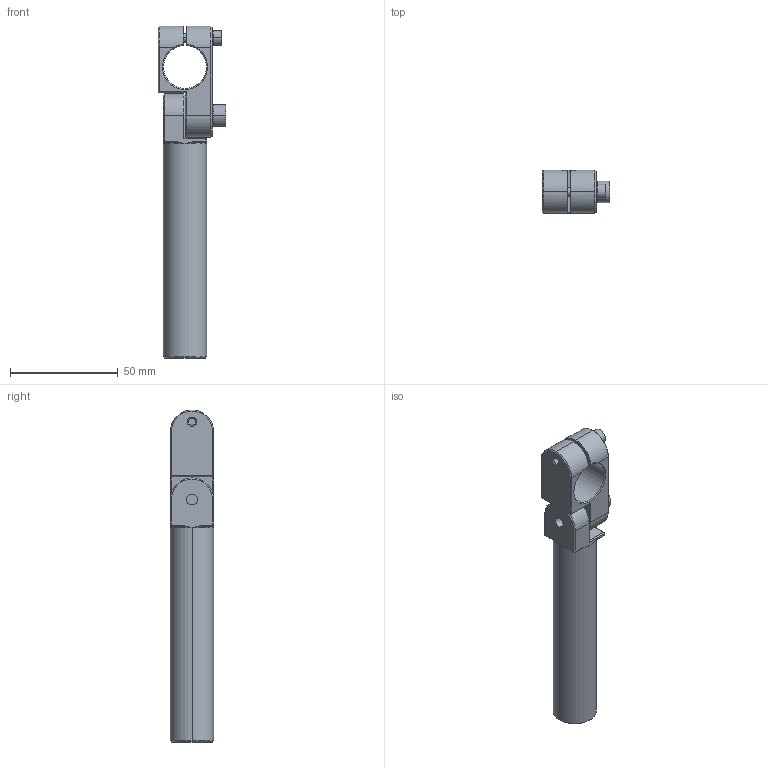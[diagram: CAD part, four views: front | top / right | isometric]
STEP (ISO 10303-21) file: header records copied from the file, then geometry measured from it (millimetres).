
FILE_DESCRIPTION (( 'STEP AP214' ), '1' );
FILE_NAME ('SEA-2020L100T.STEP', '2023-02-01T05:18:57', ( 'Windows User' ), ( 'P R C' ), 'SwSTEP 2.0', 'SolidWorks 2019', '' );
FILE_SCHEMA (( 'AUTOMOTIVE_DESIGN' ));
Length unit declared in the file: millimetre
Products named in the file (7): PTS-M4; SEA-2020L100T; PTS-M6; PTC-M6L16; SEA-2020L150.2; PTC-M4L18; SEA-2020L100.1
Assembly tree (6 placements, depth 2):
  SEA-2020L100T
    SEA-2020L150.2
    PTC-M6L16
    PTC-M4L18
    PTS-M6
    PTS-M4
    SEA-2020L100.1
Bounding box: 31.45 x 20 x 153.8 mm (x, y, z)
Volume: 31501.5 mm3; surface area: 19668.7 mm2
Topology: 6 solids, 6 shells, 470 faces, 1316 edges, 859 vertices
Faces by surface type: plane 388, cone 41, cylinder 37, bspline 4
Entity records: 16031 total; most frequent: CARTESIAN_POINT 3222, DIRECTION 2677, ORIENTED_EDGE 2632, EDGE_CURVE 1316, AXIS2_PLACEMENT_3D 918, VERTEX_POINT 859, VECTOR 841, LINE 841
